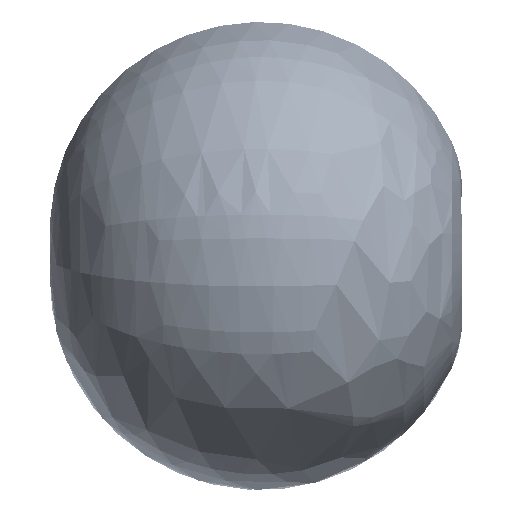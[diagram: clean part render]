
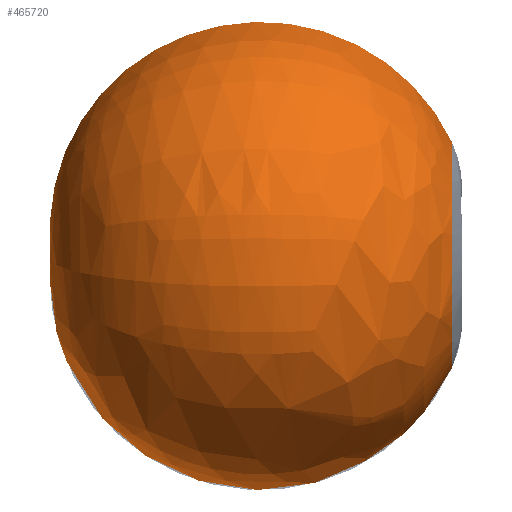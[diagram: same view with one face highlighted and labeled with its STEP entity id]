
A CAD part, left-side view. The second image highlights one B-rep face of the part: STEP entity #465720.
In plain terms, the highlighted free-form (B-spline) face has degree [3, 3] with [7, 4] control points.
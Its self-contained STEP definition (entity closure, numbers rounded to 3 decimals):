
#465494=CARTESIAN_POINT('',(-32.993,455.,187.113));
#465495=DIRECTION('',(-0.985,0.,-0.174));
#465496=DIRECTION('',(-0.073,-0.906,0.416));
#465497=AXIS2_PLACEMENT_3D('',#465494,#465495,#465496);
#465523=CARTESIAN_POINT('',(32.993,455.,187.113));
#465524=DIRECTION('',(-0.985,0.,0.174));
#465525=DIRECTION('',(0.073,-0.906,0.416));
#465526=AXIS2_PLACEMENT_3D('',#465523,#465524,#465525);
#465538=CARTESIAN_POINT('',(0.,-996.984,0.));
#465539=DIRECTION('',(0.,-1.,0.));
#465540=DIRECTION('',(-0.174,0.,0.985));
#465541=AXIS2_PLACEMENT_3D('',#465538,#465539,#465540);
#465559=CARTESIAN_POINT('',(-150.565,-996.984,
853.898));
#465560=VERTEX_POINT('',#465559);
#465561=CARTESIAN_POINT('',(0.,2045.78,
0.));
#465562=VERTEX_POINT('',#465561);
#465571=CARTESIAN_POINT('',(150.565,-996.984,
853.898));
#465572=VERTEX_POINT('',#465571);
#465685=CARTESIAN_POINT('',(43.765,-1032.891,
782.801));
#465686=CARTESIAN_POINT('',(174.456,-98.187,
3120.368));
#465687=CARTESIAN_POINT('',(139.728,2344.748,
2499.213));
#465688=CARTESIAN_POINT('',(0.,2045.78,
0.));
#465689=CARTESIAN_POINT('',(1525.984,-1032.891,
699.932));
#465690=CARTESIAN_POINT('',(6082.815,-98.187,
2790.039));
#465691=CARTESIAN_POINT('',(4871.942,2344.748,
2234.641));
#465692=CARTESIAN_POINT('',(0.,2045.78,
0.));
#465693=CARTESIAN_POINT('',(1484.534,-1032.891,
-784.023));
#465694=CARTESIAN_POINT('',(5917.587,-98.187,
-3125.241));
#465695=CARTESIAN_POINT('',(4739.605,2344.748,
-2503.116));
#465696=CARTESIAN_POINT('',(0.,2045.78,
0.));
#465697=CARTESIAN_POINT('',(0.,-1032.891,-784.023));
#465698=CARTESIAN_POINT('',(0.,-98.187,
-3125.241));
#465699=CARTESIAN_POINT('',(0.,2344.748,
-2503.116));
#465700=CARTESIAN_POINT('',(0.,2045.78,0.));
#465701=CARTESIAN_POINT('',(-1484.534,-1032.891,
-784.023));
#465702=CARTESIAN_POINT('',(-5917.587,-98.187,
-3125.241));
#465703=CARTESIAN_POINT('',(-4739.605,2344.748,
-2503.116));
#465704=CARTESIAN_POINT('',(0.,2045.78,
0.));
#465705=CARTESIAN_POINT('',(-1525.984,-1032.891,
699.932));
#465706=CARTESIAN_POINT('',(-6082.815,-98.187,
2790.039));
#465707=CARTESIAN_POINT('',(-4871.942,2344.748,
2234.641));
#465708=CARTESIAN_POINT('',(0.,2045.78,
0.));
#465709=CARTESIAN_POINT('',(-43.765,-1032.891,
782.801));
#465710=CARTESIAN_POINT('',(-174.456,-98.187,
3120.368));
#465711=CARTESIAN_POINT('',(-139.728,2344.748,
2499.213));
#465712=CARTESIAN_POINT('',(0.,2045.78,0.));
#465713=(BOUNDED_SURFACE()B_SPLINE_SURFACE(3,3,((#465685,#465686,#465687,
#465688),(#465689,#465690,#465691,#465692),(#465693,#465694,#465695,#465696),(
#465697,#465698,#465699,#465700),(#465701,#465702,#465703,#465704),(#465705,
#465706,#465707,#465708),(#465709,#465710,#465711,#465712)),.UNSPECIFIED.,.F.,
.F.,.F.)B_SPLINE_SURFACE_WITH_KNOTS((4,3,4),(4,4),(0.,1.,2.),(0.,1.),
.UNSPECIFIED.)GEOMETRIC_REPRESENTATION_ITEM()RATIONAL_B_SPLINE_SURFACE(((
3.443,1.446,1.446,3.443),(
1.212,0.509,0.509,1.212),(
1.212,0.509,0.509,1.212),(
3.443,1.446,1.446,3.443),(
1.212,0.509,0.509,1.212),(
1.212,0.509,0.509,1.212),(
3.443,1.446,1.446,3.443)))REPRESENTATION_ITEM('')SURFACE());
#465714=ORIENTED_EDGE('',*,*,#465584,.F.);
#465716=ORIENTED_EDGE('',*,*,#465715,.T.);
#465717=ORIENTED_EDGE('',*,*,#465676,.T.);
#465718=EDGE_LOOP('',(#465714,#465716,#465717));
#465719=FACE_OUTER_BOUND('',#465718,.F.);
#465720=ADVANCED_FACE('',(#465719),#465713,.T.);
#465498=CIRCLE('',#465497,1602.087);
#465527=CIRCLE('',#465526,1602.087);
#465542=CIRCLE('',#465541,867.071);
#465584=EDGE_CURVE('',#465560,#465562,#465498,.T.);
#465676=EDGE_CURVE('',#465572,#465562,#465527,.T.);
#465715=EDGE_CURVE('',#465560,#465572,#465542,.T.);
